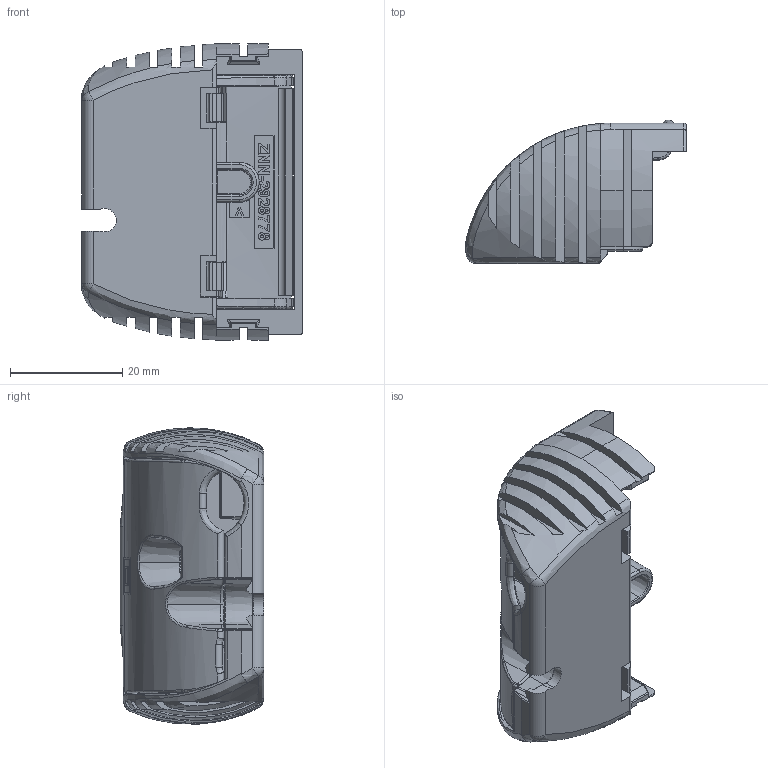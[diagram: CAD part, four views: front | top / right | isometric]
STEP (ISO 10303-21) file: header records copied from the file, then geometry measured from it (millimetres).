
FILE_DESCRIPTION (( 'STEP AP203' ), '1' );
FILE_NAME ('E-Type STRAIN RELIEF.STEP', '2013-08-27T14:41:01', ( 'Celsius R670' ), ( 'Osram-spa' ), 'SwSTEP 2.0', 'SolidWorks 2012', '' );
FILE_SCHEMA (( 'CONFIG_CONTROL_DESIGN' ));
Length unit declared in the file: millimetre
Products named in the file (3): ZNN-2928775-000-01_Standard; ZNN-2928778-000-01_Standard; E-Type STRAIN RELIEF
Assembly tree (2 placements, depth 2):
  E-Type STRAIN RELIEF
    ZNN-2928775-000-01_Standard
    ZNN-2928778-000-01_Standard
Bounding box: 39.2 x 25.57 x 52.78 mm (x, y, z)
Volume: 12207.3 mm3; surface area: 15710.5 mm2
Topology: 2 solids, 4 shells, 1377 faces, 3625 edges, 2247 vertices
Faces by surface type: plane 542, bspline 414, cylinder 274, sphere 70, cone 40, torus 37
Entity records: 61127 total; most frequent: CARTESIAN_POINT 31368, ORIENTED_EDGE 7102, DIRECTION 4724, EDGE_CURVE 3551, VERTEX_POINT 2233, LINE 1646, VECTOR 1646, AXIS2_PLACEMENT_3D 1539
